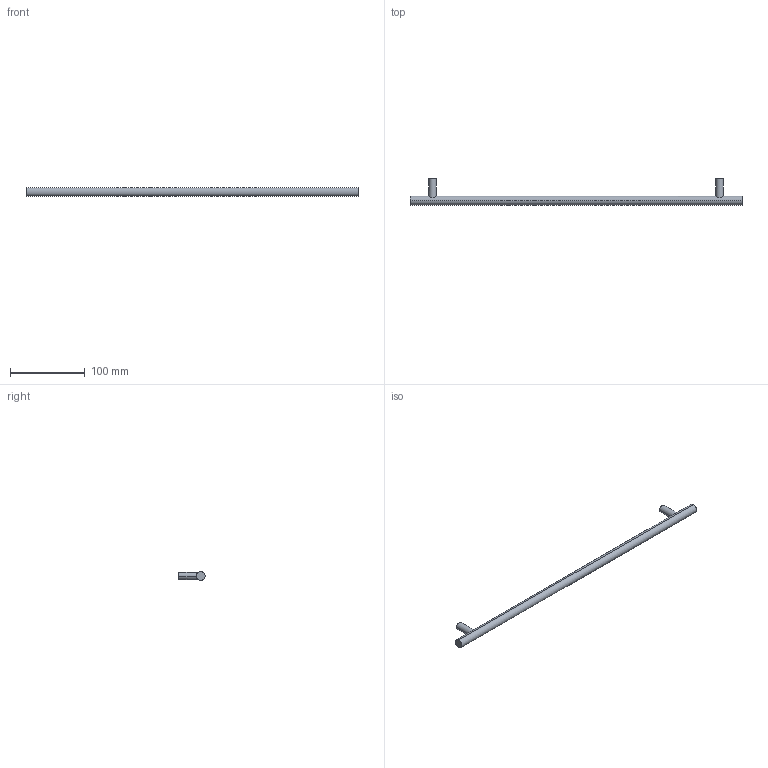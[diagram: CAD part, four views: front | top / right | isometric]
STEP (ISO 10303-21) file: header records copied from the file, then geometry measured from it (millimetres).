
FILE_DESCRIPTION( ( '' ), '1' );
FILE_NAME( 'D:/1.AUTOCAD EXPORT/Group 10/sheet_10_1/9071024.stp', '2013-10-21T10:21:44', ( '' ), ( '' ), ' ', ' ', ' ' );
FILE_SCHEMA( ( 'automotive_design' ) );
Length unit declared in the file: millimetre
Products named in the file (1): 1
Bounding box: 444 x 35 x 12 mm (x, y, z)
Volume: 53617.7 mm3; surface area: 18770 mm2
Topology: 1 solids, 1 shells, 16 faces, 32 edges, 22 vertices
Faces by surface type: cylinder 10, plane 6
Entity records: 972 total; most frequent: CARTESIAN_POINT 205, DIRECTION 76, STYLED_ITEM 71, PRESENTATION_STYLE_ASSIGNMENT 71, COLOUR_RGB 71, ORIENTED_EDGE 64, AXIS2_PLACEMENT_3D 33, EDGE_CURVE 32
